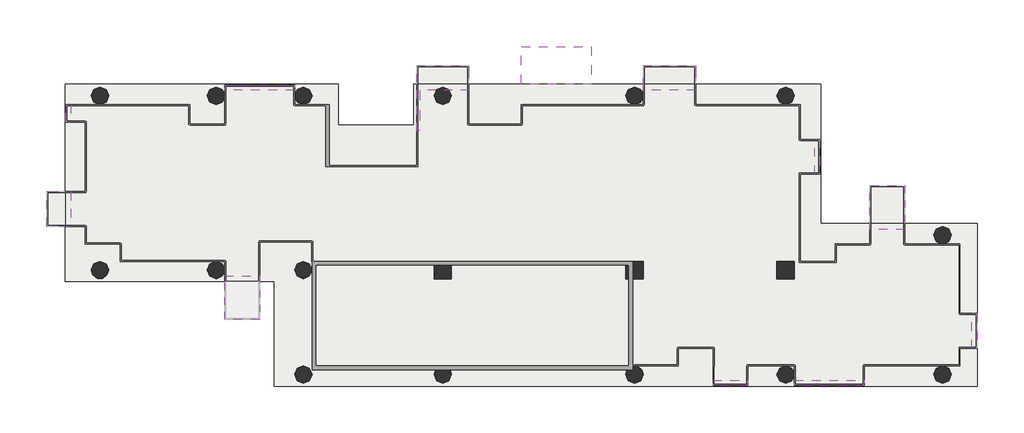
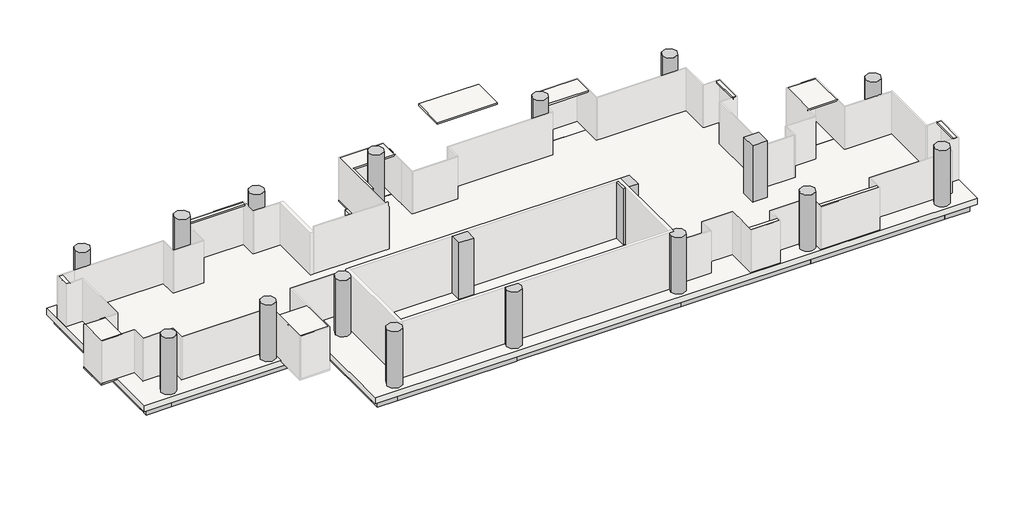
# One storey, part 2 of 2: 39 slabs, 25 beams, 18 columns.
"""IFC4 building model written with IfcOpenShell, lengths in millimetres."""

from ifc_helpers import new_model, si_unit, point, frame, frame_2d, origin, place, context, project, spatial, polyline, circle_curve, trimmed, segment, composite_curve, outline, extrude, transform, mapped, element, save
from ifc_brep_helpers import plane_surface, cylinder_surface, advanced_brep
from components import ajn_arc_ossature_rec_ba_700x600_5242ffbb, ajn_arc_ossature_rec_ba_700x600_213c05e2, ajn_arc_ossature_rec_ba_700x600_4d623bda, ajn_arc_ossature_rec_ba_700x600_c2a8f1af, ajn_arc_ossature_rec_ba_700x600_b2f97811, ajn_arc_ossature_rec_ba_700x600_e688680c, ajn_arc_ossature_rec_ba_700x600_8adee879, ajn_arc_ossature_rec_ba_700x600_6677e51c, ajn_arc_ossature_rec_ba_700x600_60e35d56, ajn_arc_ossature_rec_ba_700x600_9ae0f913, ajn_arc_ossature_rec_ba_700x600_5c14351b, ajn_arc_ossature_rec_ba_700x600_e883967f, ajn_arc_ossature_rec_ba_700x600_0984b03c, ajn_arc_ossature_rec_ba_700x600_78f846f2, ajn_arc_ossature_rec_ba_700x600_e869caa8, ajn_arc_ossature_rec_ba_700x600_0388eb48, ajn_arc_ossature_rec_ba_700x600_e143517c, ajn_arc_ossature_rec_ba_700x600_758f1bfa, ajn_arc_ossature_rec_ba_700x600_64ba80e1, ajn_arc_poteau_circulaire_2744f153

model = new_model("IFC4")

# Units and contexts
model_context = context("Model", 3, world=origin())
ifc_project = project(units=[si_unit("LENGTHUNIT", "METRE", prefix="MILLI")], contexts=[model_context])

# Site, building, storey
site = spatial("IfcSite", under=ifc_project)
building = spatial("IfcBuilding", under=site)
storey = spatial("IfcBuildingStorey", under=building, Name="TW-L 17", Elevation=60399.9999686)

# Beams
placement = place(None, origin())
ajn_arc_ossature_rec_ba_700x600_shape = ajn_arc_ossature_rec_ba_700x600_5242ffbb(model_context)
element("IfcBeam", 1, ObjectType="AJN-ARC-OSSATURE REC-BA : 700x600", at=placement, inside=storey, context=model_context, shape_type="MappedRepresentation", body=[
    mapped(ajn_arc_ossature_rec_ba_700x600_shape, transform((119350.0, 39300.0, 59849.9999686), x_axis=(-1.0, 0.0, 0.0), y_axis=(0.0, -1.0, 0.0), z_axis=(0.0, 0.0, 1.0))),
])
ajn_arc_ossature_rec_ba_700x600_2_shape = ajn_arc_ossature_rec_ba_700x600_213c05e2(model_context)
element("IfcBeam", 2, ObjectType="AJN-ARC-OSSATURE REC-BA : 700x600", at=placement, inside=storey, context=model_context, shape_type="MappedRepresentation", body=[
    mapped(ajn_arc_ossature_rec_ba_700x600_2_shape, transform((100900.0, 34800.0, 59849.9999686), x_axis=(0.0, -1.0, 0.0), y_axis=(1.0, 0.0, 0.0), z_axis=(0.0, 0.0, 1.0))),
])
ajn_arc_ossature_rec_ba_700x600_3_shape = ajn_arc_ossature_rec_ba_700x600_4d623bda(model_context)
element("IfcBeam", 3, ObjectType="AJN-ARC-OSSATURE REC-BA : 700x600", at=placement, inside=storey, context=model_context, shape_type="MappedRepresentation", body=[
    mapped(ajn_arc_ossature_rec_ba_700x600_3_shape, transform((112150.0, 24900.0, 59849.9999686), x_axis=(1.0, 0.0, 0.0), y_axis=(0.0, 1.0, 0.0), z_axis=(0.0, 0.0, 1.0))),
])
ajn_arc_ossature_rec_ba_700x600_4_shape = ajn_arc_ossature_rec_ba_700x600_c2a8f1af(model_context)
element("IfcBeam", 4, ObjectType="AJN-ARC-OSSATURE REC-BA : 700x600", at=placement, inside=storey, context=model_context, shape_type="MappedRepresentation", body=[
    mapped(ajn_arc_ossature_rec_ba_700x600_4_shape, transform((116200.0, 24900.0, 59849.9999686), x_axis=(1.0, 0.0, 0.0), y_axis=(0.0, 1.0, 0.0), z_axis=(0.0, 0.0, 1.0))),
])
ajn_arc_ossature_rec_ba_700x600_5_shape = ajn_arc_ossature_rec_ba_700x600_b2f97811(model_context)
element("IfcBeam", 5, ObjectType="AJN-ARC-OSSATURE REC-BA : 700x600", at=placement, inside=storey, context=model_context, shape_type="MappedRepresentation", body=[
    mapped(ajn_arc_ossature_rec_ba_700x600_5_shape, transform((106900.0, 30300.0, 59849.9999686), x_axis=(1.0, 0.0, 0.0), y_axis=(0.0, 1.0, 0.0), z_axis=(0.0, 0.0, 1.0))),
])
ajn_arc_ossature_rec_ba_700x600_6_shape = ajn_arc_ossature_rec_ba_700x600_e688680c(model_context)
element("IfcBeam", 6, ObjectType="AJN-ARC-OSSATURE REC-BA : 700x600", at=placement, inside=storey, context=model_context, shape_type="MappedRepresentation", body=[
    mapped(ajn_arc_ossature_rec_ba_700x600_6_shape, transform((111700.0, 27600.0, 59849.9999686), x_axis=(0.0, -1.0, 0.0), y_axis=(1.0, 0.0, 0.0), z_axis=(0.0, 0.0, 1.0))),
])
ajn_arc_ossature_rec_ba_700x600_7_shape = ajn_arc_ossature_rec_ba_700x600_8adee879(model_context)
element("IfcBeam", 7, ObjectType="AJN-ARC-OSSATURE REC-BA : 700x600", at=placement, inside=storey, context=model_context, shape_type="MappedRepresentation", body=[
    mapped(ajn_arc_ossature_rec_ba_700x600_7_shape, transform((124750.0, 24900.0, 59849.9999686), x_axis=(1.0, 0.0, 0.0), y_axis=(0.0, 1.0, 0.0), z_axis=(0.0, 0.0, 1.0))),
])
element("IfcBeam", 8, ObjectType="AJN-ARC-OSSATURE REC-BA : 700x600", at=placement, inside=storey, context=model_context, shape_type="MappedRepresentation", body=[
    mapped(ajn_arc_ossature_rec_ba_700x600_7_shape, transform((124750.0, 39300.0, 59849.9999686), x_axis=(-1.0, 0.0, 0.0), y_axis=(0.0, -1.0, 0.0), z_axis=(0.0, 0.0, 1.0))),
])
ajn_arc_ossature_rec_ba_700x600_8_shape = ajn_arc_ossature_rec_ba_700x600_6677e51c(model_context)
element("IfcBeam", 9, ObjectType="AJN-ARC-OSSATURE REC-BA : 700x600", at=placement, inside=storey, context=model_context, shape_type="MappedRepresentation", body=[
    mapped(ajn_arc_ossature_rec_ba_700x600_8_shape, transform((133600.0, 24900.0, 59849.9999686), x_axis=(1.0, 0.0, 0.0), y_axis=(0.0, 1.0, 0.0), z_axis=(0.0, 0.0, 1.0))),
])
ajn_arc_ossature_rec_ba_700x600_9_shape = ajn_arc_ossature_rec_ba_700x600_60e35d56(model_context)
element("IfcBeam", 10, ObjectType="AJN-ARC-OSSATURE REC-BA : 700x600", at=placement, inside=storey, context=model_context, shape_type="MappedRepresentation", body=[
    mapped(ajn_arc_ossature_rec_ba_700x600_9_shape, transform((141550.0, 24900.0, 59849.9999686), x_axis=(1.0, 0.0, 0.0), y_axis=(0.0, 1.0, 0.0), z_axis=(0.0, 0.0, 1.0))),
])
ajn_arc_ossature_rec_ba_700x600_10_shape = ajn_arc_ossature_rec_ba_700x600_9ae0f913(model_context)
element("IfcBeam", 11, ObjectType="AJN-ARC-OSSATURE REC-BA : 700x600", at=placement, inside=storey, context=model_context, shape_type="MappedRepresentation", body=[
    mapped(ajn_arc_ossature_rec_ba_700x600_10_shape, transform((146200.0, 24900.0, 59849.9999686), x_axis=(1.0, 0.0, 0.0), y_axis=(0.0, 1.0, 0.0), z_axis=(0.0, 0.0, 1.0))),
])
element("IfcBeam", 12, ObjectType="AJN-ARC-OSSATURE REC-BA : 700x600", at=placement, inside=storey, context=model_context, shape_type="MappedRepresentation", body=[
    mapped(ajn_arc_ossature_rec_ba_700x600_10_shape, transform((101500.0, 39300.0, 59849.9999686), x_axis=(-1.0, 0.0, 0.0), y_axis=(0.0, -1.0, 0.0), z_axis=(0.0, 0.0, 1.0))),
])
ajn_arc_ossature_rec_ba_700x600_11_shape = ajn_arc_ossature_rec_ba_700x600_5c14351b(model_context)
element("IfcBeam", 13, ObjectType="AJN-ARC-OSSATURE REC-BA : 700x600", at=placement, inside=storey, context=model_context, shape_type="MappedRepresentation", body=[
    mapped(ajn_arc_ossature_rec_ba_700x600_11_shape, transform((146800.0, 28500.0, 59849.9999686), x_axis=(0.0, 1.0, 0.0), y_axis=(-1.0, 0.0, 0.0), z_axis=(0.0, 0.0, 1.0))),
])
element("IfcBeam", 14, ObjectType="AJN-ARC-OSSATURE REC-BA : 700x600", at=placement, inside=storey, context=model_context, shape_type="MappedRepresentation", body=[
    mapped(ajn_arc_ossature_rec_ba_700x600_11_shape, transform((138700.0, 35700.0, 59849.9999686), x_axis=(0.0, 1.0, 0.0), y_axis=(-1.0, 0.0, 0.0), z_axis=(0.0, 0.0, 1.0))),
])
ajn_arc_ossature_rec_ba_700x600_12_shape = ajn_arc_ossature_rec_ba_700x600_e883967f(model_context)
element("IfcBeam", 15, ObjectType="AJN-ARC-OSSATURE REC-BA : 700x600", at=placement, inside=storey, context=model_context, shape_type="MappedRepresentation", body=[
    mapped(ajn_arc_ossature_rec_ba_700x600_12_shape, transform((146200.0, 32100.0, 59849.9999686), x_axis=(-1.0, 0.0, 0.0), y_axis=(0.0, -1.0, 0.0), z_axis=(0.0, 0.0, 1.0))),
])
element("IfcBeam", 16, ObjectType="AJN-ARC-OSSATURE REC-BA : 700x600", at=placement, inside=storey, context=model_context, shape_type="MappedRepresentation", body=[
    mapped(ajn_arc_ossature_rec_ba_700x600_12_shape, transform((138100.0, 39300.0, 59849.9999686), x_axis=(-1.0, 0.0, 0.0), y_axis=(0.0, -1.0, 0.0), z_axis=(0.0, 0.0, 1.0))),
])
element("IfcBeam", 17, ObjectType="AJN-ARC-OSSATURE REC-BA : 700x600", at=placement, inside=storey, context=model_context, shape_type="MappedRepresentation", body=[
    mapped(ajn_arc_ossature_rec_ba_700x600_12_shape, transform((113200.0, 39300.0, 59849.9999686), x_axis=(-1.0, 0.0, 0.0), y_axis=(0.0, -1.0, 0.0), z_axis=(0.0, 0.0, 1.0))),
])
element("IfcBeam", 18, ObjectType="AJN-ARC-OSSATURE REC-BA : 700x600", at=placement, inside=storey, context=model_context, shape_type="MappedRepresentation", body=[
    mapped(ajn_arc_ossature_rec_ba_700x600_12_shape, transform((101500.0, 30300.0, 59849.9999686), x_axis=(1.0, 0.0, 0.0), y_axis=(0.0, 1.0, 0.0), z_axis=(0.0, 0.0, 1.0))),
])
ajn_arc_ossature_rec_ba_700x600_13_shape = ajn_arc_ossature_rec_ba_700x600_0984b03c(model_context)
element("IfcBeam", 19, ObjectType="AJN-ARC-OSSATURE REC-BA : 700x600", at=placement, inside=storey, context=model_context, shape_type="MappedRepresentation", body=[
    mapped(ajn_arc_ossature_rec_ba_700x600_13_shape, transform((142150.0, 32100.0, 59849.9999686), x_axis=(-1.0, 0.0, 0.0), y_axis=(0.0, -1.0, 0.0), z_axis=(0.0, 0.0, 1.0))),
])
ajn_arc_ossature_rec_ba_700x600_14_shape = ajn_arc_ossature_rec_ba_700x600_78f846f2(model_context)
element("IfcBeam", 20, ObjectType="AJN-ARC-OSSATURE REC-BA : 700x600", at=placement, inside=storey, context=model_context, shape_type="MappedRepresentation", body=[
    mapped(ajn_arc_ossature_rec_ba_700x600_14_shape, transform((133600.0, 39300.0, 59849.9999686), x_axis=(-1.0, 0.0, 0.0), y_axis=(0.0, -1.0, 0.0), z_axis=(0.0, 0.0, 1.0))),
])
ajn_arc_ossature_rec_ba_700x600_15_shape = ajn_arc_ossature_rec_ba_700x600_e869caa8(model_context)
element("IfcBeam", 21, ObjectType="AJN-ARC-OSSATURE REC-BA : 700x600", at=placement, inside=storey, context=model_context, shape_type="MappedRepresentation", body=[
    mapped(ajn_arc_ossature_rec_ba_700x600_15_shape, transform((118900.0, 38250.0, 59849.9999686), x_axis=(0.0, -1.0, 0.0), y_axis=(1.0, 0.0, 0.0), z_axis=(0.0, 0.0, 1.0))),
])
ajn_arc_ossature_rec_ba_700x600_16_shape = ajn_arc_ossature_rec_ba_700x600_0388eb48(model_context)
element("IfcBeam", 22, ObjectType="AJN-ARC-OSSATURE REC-BA : 700x600", at=placement, inside=storey, context=model_context, shape_type="MappedRepresentation", body=[
    mapped(ajn_arc_ossature_rec_ba_700x600_16_shape, transform((110350.0, 39300.0, 59849.9999686), x_axis=(-1.0, 0.0, 0.0), y_axis=(0.0, -1.0, 0.0), z_axis=(0.0, 0.0, 1.0))),
])
ajn_arc_ossature_rec_ba_700x600_17_shape = ajn_arc_ossature_rec_ba_700x600_e143517c(model_context)
element("IfcBeam", 23, ObjectType="AJN-ARC-OSSATURE REC-BA : 700x600", at=placement, inside=storey, context=model_context, shape_type="MappedRepresentation", body=[
    mapped(ajn_arc_ossature_rec_ba_700x600_17_shape, transform((105100.0, 39300.0, 59849.9999686), x_axis=(-1.0, 0.0, 0.0), y_axis=(0.0, -1.0, 0.0), z_axis=(0.0, 0.0, 1.0))),
])
ajn_arc_ossature_rec_ba_700x600_18_shape = ajn_arc_ossature_rec_ba_700x600_758f1bfa(model_context)
element("IfcBeam", 24, ObjectType="AJN-ARC-OSSATURE REC-BA : 700x600", at=placement, inside=storey, context=model_context, shape_type="MappedRepresentation", body=[
    mapped(ajn_arc_ossature_rec_ba_700x600_18_shape, transform((116350.0, 37200.0, 59849.9999686), x_axis=(-1.0, 0.0, 0.0), y_axis=(0.0, -1.0, 0.0), z_axis=(0.0, 0.0, 1.0))),
])
ajn_arc_ossature_rec_ba_700x600_19_shape = ajn_arc_ossature_rec_ba_700x600_64ba80e1(model_context)
element("IfcBeam", 25, ObjectType="AJN-ARC-OSSATURE REC-BA : 700x600", at=placement, inside=storey, context=model_context, shape_type="MappedRepresentation", body=[
    mapped(ajn_arc_ossature_rec_ba_700x600_19_shape, transform((113800.0, 38250.0, 59849.9999686), x_axis=(0.0, 1.0, 0.0), y_axis=(-1.0, 0.0, 0.0), z_axis=(0.0, 0.0, 1.0))),
])

# Columns
element("IfcColumn", 26, ObjectType="AJN-ARC-POTEAU CIRCULAIRE : ø90", at=placement, inside=storey, context=model_context, shape_type="SweptSolid", body=[
    extrude(outline(composite_curve([segment(trimmed(circle_curve(frame_2d((102100.0, 39300.0)), 450.0), [point((101650.0, 39300.0))], [point((102550.0, 39300.0))], False, "CARTESIAN"), True, "CONTINUOUS"), segment(trimmed(circle_curve(frame_2d((102100.0, 39300.0)), 450.0), [point((102550.0, 39300.0))], [point((101650.0, 39300.0))], False, "CARTESIAN"), True, "CONTINUOUS")], self_intersect=False)), frame((0.0, 0.0, 60399.9999686), z_axis=(0.0, 0.0, 1.0), x_axis=(1.0, 0.0, 0.0)), (0.0, 0.0, 1.0), 3600.0),
])
element("IfcColumn", 27, ObjectType="AJN-ARC-POTEAU CIRCULAIRE : ø90", at=placement, inside=storey, context=model_context, shape_type="AdvancedBrep", body=[
    advanced_brep(
    [(107650.0, 30300.0, 60399.9999686), (108547.1743518, 30350.3497671, 60399.9999686), (108547.1743518, 30249.6502329, 60399.9999686), (107650.0, 30300.0, 63999.9999686), (108550.0, 30300.0, 63999.9999686), (108550.0, 30300.0, 63099.9999686), (108547.1743518, 30350.3497671, 63099.9999686), (108547.1743518, 30249.6502329, 63099.9999686)],
    [
        (0, 1, circle_curve(frame((108100.0, 30300.0, 60399.9999686), z_axis=(0.0, 0.0, -1.0), x_axis=(1.0, 0.0, 0.0)), 450.0)),
        (1, 2),
        (2, 0, circle_curve(frame((108100.0, 30300.0, 60399.9999686), z_axis=(0.0, 0.0, -1.0), x_axis=(1.0, 0.0, 0.0)), 450.0)),
        (3, 4, circle_curve(frame((108100.0, 30300.0, 63999.9999686), z_axis=(0.0, 0.0, -1.0), x_axis=(1.0, 0.0, 0.0)), 450.0)),
        (4, 5),
        (5, 6, circle_curve(frame((108100.0, 30300.0, 63099.9999686), z_axis=(0.0, 0.0, 1.0), x_axis=(1.0, 0.0, 0.0)), 450.0)),
        (6, 1),
        (0, 3),
        (2, 7),
        (7, 5, circle_curve(frame((108100.0, 30300.0, 63099.9999686), z_axis=(0.0, 0.0, 1.0), x_axis=(1.0, 0.0, 0.0)), 450.0)),
        (4, 3, circle_curve(frame((108100.0, 30300.0, 63999.9999686), z_axis=(0.0, 0.0, -1.0), x_axis=(1.0, 0.0, 0.0)), 450.0)),
        (6, 7),
    ],
    [
        plane_surface(frame((108550.0, 30300.0, 60399.9999686), z_axis=(0.0, 0.0, -1.0), x_axis=(0.0, -1.0, 0.0))),
        cylinder_surface(frame((108100.0, 30300.0, 60399.9999686), z_axis=(0.0, 0.0, 1.0), x_axis=(1.0, 0.0, 0.0)), 450.0),
        plane_surface(frame((108550.0, 30300.0, 63999.9999686), z_axis=(0.0, 0.0, 1.0), x_axis=(0.0, 1.0, 0.0))),
        plane_surface(frame((108547.1743518, 30750.0, 60399.9999686), z_axis=(1.0, 0.0, 0.0), x_axis=(0.0, -1.0, 0.0))),
        plane_surface(frame((108547.1743518, 27775.0, 63099.9999686), z_axis=(0.0, 0.0, -1.0), x_axis=(1.0, 0.0, 0.0))),
    ],
    [
        (0, [[1, 2, 3]]),
        (1, [[4, 5, 6, 7, -1, 8]]),
        (1, [[-8, -3, 9, 10, -5, 11]]),
        (2, [[-4, -11]]),
        (3, [[12, -9, -2, -7]]),
        (4, [[-12, -6, -10]]),
    ],
),
])
element("IfcColumn", 28, ObjectType="AJN-ARC-POTEAU CIRCULAIRE : ø90", at=placement, inside=storey, context=model_context, shape_type="SweptSolid", body=[
    extrude(outline(composite_curve([segment(trimmed(circle_curve(frame_2d((108100.0, 39300.0)), 450.0), [point((107650.0, 39300.0))], [point((108550.0, 39300.0))], False, "CARTESIAN"), True, "CONTINUOUS"), segment(trimmed(circle_curve(frame_2d((108100.0, 39300.0)), 450.0), [point((108550.0, 39300.0))], [point((107650.0, 39300.0))], False, "CARTESIAN"), True, "CONTINUOUS")], self_intersect=False)), frame((0.0, 0.0, 60399.9999686), z_axis=(0.0, 0.0, 1.0), x_axis=(1.0, 0.0, 0.0)), (0.0, 0.0, 1.0), 3600.0),
])
element("IfcColumn", 29, ObjectType="AJN-ARC-POTEAU CIRCULAIRE : ø90", at=placement, inside=storey, context=model_context, shape_type="SweptSolid", body=[
    extrude(outline(composite_curve([segment(trimmed(circle_curve(frame_2d((112600.0, 39300.0)), 450.0), [point((112150.0, 39300.0))], [point((113050.0, 39300.0))], False, "CARTESIAN"), True, "CONTINUOUS"), segment(trimmed(circle_curve(frame_2d((112600.0, 39300.0)), 450.0), [point((113050.0, 39300.0))], [point((112150.0, 39300.0))], False, "CARTESIAN"), True, "CONTINUOUS")], self_intersect=False)), frame((0.0, 0.0, 60399.9999686), z_axis=(0.0, 0.0, 1.0), x_axis=(1.0, 0.0, 0.0)), (0.0, 0.0, 1.0), 3600.0),
])
element("IfcColumn", 30, ObjectType="AJN-ARC-POTEAU CIRCULAIRE : ø90", at=placement, inside=storey, context=model_context, shape_type="SweptSolid", body=[
    extrude(outline(composite_curve([segment(trimmed(circle_curve(frame_2d((112600.0, 30300.0)), 450.0), [point((112150.0, 30300.0))], [point((113050.0, 30300.0))], False, "CARTESIAN"), True, "CONTINUOUS"), segment(trimmed(circle_curve(frame_2d((112600.0, 30300.0)), 450.0), [point((113050.0, 30300.0))], [point((112150.0, 30300.0))], False, "CARTESIAN"), True, "CONTINUOUS")], self_intersect=False)), frame((0.0, 0.0, 60399.9999686), z_axis=(0.0, 0.0, 1.0), x_axis=(1.0, 0.0, 0.0)), (0.0, 0.0, 1.0), 3600.0),
])
element("IfcColumn", 31, ObjectType="AJN-ARC-POTEAU CIRCULAIRE : ø90", at=placement, inside=storey, context=model_context, shape_type="SweptSolid", body=[
    extrude(outline(composite_curve([segment(trimmed(circle_curve(frame_2d((112600.0, 24900.0)), 450.0), [point((112150.0, 24900.0))], [point((113050.0, 24900.0))], False, "CARTESIAN"), True, "CONTINUOUS"), segment(trimmed(circle_curve(frame_2d((112600.0, 24900.0)), 450.0), [point((113050.0, 24900.0))], [point((112150.0, 24900.0))], False, "CARTESIAN"), True, "CONTINUOUS")], self_intersect=False)), frame((0.0, 0.0, 60399.9999686), z_axis=(0.0, 0.0, 1.0), x_axis=(1.0, 0.0, 0.0)), (0.0, 0.0, 1.0), 3600.0),
])
element("IfcColumn", 32, ObjectType="AJN-ARC-POTEAU CIRCULAIRE : ø90", at=placement, inside=storey, context=model_context, shape_type="SweptSolid", body=[
    extrude(outline(composite_curve([segment(trimmed(circle_curve(frame_2d((119800.0, 24900.0)), 450.0), [point((120250.0, 24900.0))], [point((119350.0, 24900.0))], False, "CARTESIAN"), True, "CONTINUOUS"), segment(trimmed(circle_curve(frame_2d((119800.0, 24900.0)), 450.0), [point((119350.0, 24900.0))], [point((119425.8342613, 25150.0))], False, "CARTESIAN"), True, "CONTINUOUS"), segment(polyline([(119425.8342613, 25150.0), (120174.1657387, 25150.0)]), True, "CONTINUOUS"), segment(trimmed(circle_curve(frame_2d((119800.0, 24900.0)), 450.0), [point((120174.1657387, 25150.0))], [point((120250.0, 24900.0))], False, "CARTESIAN"), True, "CONTINUOUS")], self_intersect=False)), frame((0.0, 0.0, 60399.9999686), z_axis=(0.0, 0.0, 1.0), x_axis=(1.0, 0.0, 0.0)), (0.0, 0.0, 1.0), 3600.0),
])
element("IfcColumn", 33, ObjectType="AJN-ARC-POTEAU CIRCULAIRE : ø90", at=placement, inside=storey, context=model_context, shape_type="SweptSolid", body=[
    extrude(outline(composite_curve([segment(trimmed(circle_curve(frame_2d((119800.0, 39300.0)), 450.0), [point((119350.0, 39300.0))], [point((120250.0, 39300.0))], False, "CARTESIAN"), True, "CONTINUOUS"), segment(trimmed(circle_curve(frame_2d((119800.0, 39300.0)), 450.0), [point((120250.0, 39300.0))], [point((119350.0, 39300.0))], False, "CARTESIAN"), True, "CONTINUOUS")], self_intersect=False)), frame((0.0, 0.0, 60399.9999686), z_axis=(0.0, 0.0, 1.0), x_axis=(1.0, 0.0, 0.0)), (0.0, 0.0, 1.0), 3600.0),
])
element("IfcColumn", 34, ObjectType="AJN-ARC-POTEAU CIRCULAIRE : ø90", at=placement, inside=storey, context=model_context, shape_type="SweptSolid", body=[
    extrude(outline(composite_curve([segment(trimmed(circle_curve(frame_2d((129700.0, 39300.0)), 450.0), [point((129250.0, 39300.0))], [point((130150.0, 39300.0))], False, "CARTESIAN"), True, "CONTINUOUS"), segment(trimmed(circle_curve(frame_2d((129700.0, 39300.0)), 450.0), [point((130150.0, 39300.0))], [point((129250.0, 39300.0))], False, "CARTESIAN"), True, "CONTINUOUS")], self_intersect=False)), frame((0.0, 0.0, 60399.9999686), z_axis=(0.0, 0.0, 1.0), x_axis=(1.0, 0.0, 0.0)), (0.0, 0.0, 1.0), 3600.0),
])
element("IfcColumn", 35, ObjectType="AJN-ARC-POTEAU CIRCULAIRE : ø90", at=placement, inside=storey, context=model_context, shape_type="SweptSolid", body=[
    extrude(outline(composite_curve([segment(trimmed(circle_curve(frame_2d((129700.0, 24900.0)), 450.0), [point((130150.0, 24900.0))], [point((129250.0, 24900.0))], False, "CARTESIAN"), True, "CONTINUOUS"), segment(trimmed(circle_curve(frame_2d((129700.0, 24900.0)), 450.0), [point((129250.0, 24900.0))], [point((129325.8342613, 25150.0))], False, "CARTESIAN"), True, "CONTINUOUS"), segment(polyline([(129325.8342613, 25150.0), (129600.0, 25150.0), (129600.0, 25338.7482194)]), True, "CONTINUOUS"), segment(trimmed(circle_curve(frame_2d((129700.0, 24900.0)), 450.0), [point((129600.0, 25338.7482194))], [point((130150.0, 24900.0))], False, "CARTESIAN"), True, "CONTINUOUS")], self_intersect=False)), frame((0.0, 0.0, 60399.9999686), z_axis=(0.0, 0.0, 1.0), x_axis=(1.0, 0.0, 0.0)), (0.0, 0.0, 1.0), 3600.0),
])
element("IfcColumn", 36, ObjectType="AJN-ARC-POTEAU CIRCULAIRE : ø90", at=placement, inside=storey, context=model_context, shape_type="SweptSolid", body=[
    extrude(outline(composite_curve([segment(trimmed(circle_curve(frame_2d((137500.0, 39300.0)), 450.0), [point((137050.0, 39300.0))], [point((137950.0, 39300.0))], False, "CARTESIAN"), True, "CONTINUOUS"), segment(trimmed(circle_curve(frame_2d((137500.0, 39300.0)), 450.0), [point((137950.0, 39300.0))], [point((137050.0, 39300.0))], False, "CARTESIAN"), True, "CONTINUOUS")], self_intersect=False)), frame((0.0, 0.0, 60399.9999686), z_axis=(0.0, 0.0, 1.0), x_axis=(1.0, 0.0, 0.0)), (0.0, 0.0, 1.0), 3600.0),
])
element("IfcColumn", 37, ObjectType="AJN-ARC-POTEAU CIRCULAIRE : ø90", at=placement, inside=storey, context=model_context, shape_type="SweptSolid", body=[
    extrude(outline(composite_curve([segment(trimmed(circle_curve(frame_2d((137500.0, 24900.0)), 450.0), [point((137050.0, 24900.0))], [point((137950.0, 24900.0))], False, "CARTESIAN"), True, "CONTINUOUS"), segment(trimmed(circle_curve(frame_2d((137500.0, 24900.0)), 450.0), [point((137950.0, 24900.0))], [point((137050.0, 24900.0))], False, "CARTESIAN"), True, "CONTINUOUS")], self_intersect=False)), frame((0.0, 0.0, 60399.9999686), z_axis=(0.0, 0.0, 1.0), x_axis=(1.0, 0.0, 0.0)), (0.0, 0.0, 1.0), 3600.0),
])
element("IfcColumn", 38, ObjectType="AJN-ARC-POTEAU CIRCULAIRE : ø90", at=placement, inside=storey, context=model_context, shape_type="SweptSolid", body=[
    extrude(outline(composite_curve([segment(trimmed(circle_curve(frame_2d((145600.0, 24900.0)), 450.0), [point((145150.0, 24900.0))], [point((146050.0, 24900.0))], False, "CARTESIAN"), True, "CONTINUOUS"), segment(trimmed(circle_curve(frame_2d((145600.0, 24900.0)), 450.0), [point((146050.0, 24900.0))], [point((145150.0, 24900.0))], False, "CARTESIAN"), True, "CONTINUOUS")], self_intersect=False)), frame((0.0, 0.0, 60399.9999686), z_axis=(0.0, 0.0, 1.0), x_axis=(1.0, 0.0, 0.0)), (0.0, 0.0, 1.0), 3600.0),
])
element("IfcColumn", 39, ObjectType="AJN-ARC-POTEAU CIRCULAIRE : ø90", at=placement, inside=storey, context=model_context, shape_type="AdvancedBrep", body=[
    advanced_brep(
    [(145150.0, 32100.0, 60399.9999686), (146050.0, 32100.0, 60399.9999686), (145638.6089983, 31651.6593424, 60399.9999686), (145561.3910017, 31651.6593424, 60399.9999686), (145150.0, 32100.0, 63999.9999686), (146050.0, 32100.0, 63999.9999686), (145561.3910017, 31651.6593424, 63099.9999686), (145638.6089983, 31651.6593424, 63099.9999686)],
    [
        (0, 1, circle_curve(frame((145600.0, 32100.0, 60399.9999686), z_axis=(0.0, 0.0, -1.0), x_axis=(1.0, 0.0, 0.0)), 450.0)),
        (1, 2, circle_curve(frame((145600.0, 32100.0, 60399.9999686), z_axis=(0.0, 0.0, -1.0), x_axis=(1.0, 0.0, 0.0)), 450.0)),
        (2, 3),
        (3, 0, circle_curve(frame((145600.0, 32100.0, 60399.9999686), z_axis=(0.0, 0.0, -1.0), x_axis=(1.0, 0.0, 0.0)), 450.0)),
        (0, 4),
        (4, 5, circle_curve(frame((145600.0, 32100.0, 63999.9999686), z_axis=(0.0, 0.0, -1.0), x_axis=(1.0, 0.0, 0.0)), 450.0)),
        (5, 1),
        (5, 4, circle_curve(frame((145600.0, 32100.0, 63999.9999686), z_axis=(0.0, 0.0, -1.0), x_axis=(1.0, 0.0, 0.0)), 450.0)),
        (3, 6),
        (6, 7, circle_curve(frame((145600.0, 32100.0, 63099.9999686), z_axis=(0.0, 0.0, 1.0), x_axis=(1.0, 0.0, 0.0)), 450.0)),
        (7, 2),
        (7, 6),
    ],
    [
        plane_surface(frame((146050.0, 32100.0, 60399.9999686), z_axis=(0.0, 0.0, -1.0), x_axis=(0.0, -1.0, 0.0))),
        cylinder_surface(frame((145600.0, 32100.0, 60399.9999686), z_axis=(0.0, 0.0, 1.0), x_axis=(1.0, 0.0, 0.0)), 450.0),
        plane_surface(frame((146050.0, 32100.0, 63999.9999686), z_axis=(0.0, 0.0, 1.0), x_axis=(0.0, 1.0, 0.0))),
        plane_surface(frame((146472.681474, 31651.6593424, 60399.9999686), z_axis=(0.0, -1.0, 0.0), x_axis=(-1.0, 0.0, 0.0))),
        plane_surface(frame((143650.0, 31651.6593424, 63099.9999686), z_axis=(0.0, 0.0, -1.0), x_axis=(0.0, -1.0, 0.0))),
    ],
    [
        (0, [[1, 2, 3, 4]]),
        (1, [[-1, 5, 6, 7]]),
        (1, [[-7, 8, -5, -4, 9, 10, 11, -2]]),
        (2, [[-6, -8]]),
        (3, [[12, -9, -3, -11]]),
        (4, [[-12, -10]]),
    ],
),
])
ajn_arc_poteau_circulaire_shape = ajn_arc_poteau_circulaire_2744f153(model_context)
element("IfcColumn", 40, ObjectType="AJN-ARC-POTEAU CIRCULAIRE : ø90", at=placement, inside=storey, context=model_context, shape_type="MappedRepresentation", body=[
    mapped(ajn_arc_poteau_circulaire_shape, transform((102100.0, 30300.0, 0.0), x_axis=(1.0, 0.0, 0.0), y_axis=(0.0, 1.0, 0.0), z_axis=(0.0, 0.0, 1.0))),
])
element("IfcColumn", 41, ObjectType="AJN-ARC-POTEAU RECTANGULAIRE : 900 mm x 900 mm", at=placement, inside=storey, context=model_context, shape_type="SweptSolid", body=[
    extrude(outline(polyline([(137950.0, 30750.0), (137950.0, 29850.0), (137050.0, 29850.0), (137050.0, 30750.0), (137950.0, 30750.0)])), frame((0.0, 0.0, 60399.9999686), z_axis=(0.0, 0.0, 1.0), x_axis=(1.0, 0.0, 0.0)), (0.0, 0.0, 1.0), 3600.0),
])
element("IfcColumn", 42, ObjectType="AJN-ARC-POTEAU RECTANGULAIRE : 900 mm x 900 mm", at=placement, inside=storey, context=model_context, shape_type="SweptSolid", body=[
    extrude(outline(polyline([(129400.0, 29850.0), (129250.0, 29850.0), (129250.0, 30550.0), (129400.0, 30550.0), (129400.0, 29850.0)])), frame((0.0, 0.0, 60399.9999686), z_axis=(0.0, 0.0, 1.0), x_axis=(1.0, 0.0, 0.0)), (0.0, 0.0, 1.0), 3600.0),
    extrude(outline(polyline([(130150.0, 30750.0), (130150.0, 29850.0), (129600.0, 29850.0), (129600.0, 30750.0), (130150.0, 30750.0)])), frame((0.0, 0.0, 60399.9999686), z_axis=(0.0, 0.0, 1.0), x_axis=(1.0, 0.0, 0.0)), (0.0, 0.0, 1.0), 3600.0),
])
element("IfcColumn", 43, ObjectType="AJN-ARC-POTEAU RECTANGULAIRE : 900 mm x 900 mm", at=placement, inside=storey, context=model_context, shape_type="SweptSolid", body=[
    extrude(outline(polyline([(120250.0, 29850.0), (119350.0, 29850.0), (119350.0, 30550.0), (120250.0, 30550.0), (120250.0, 29850.0)])), frame((0.0, 0.0, 60399.9999686), z_axis=(0.0, 0.0, 1.0), x_axis=(1.0, 0.0, 0.0)), (0.0, 0.0, 1.0), 3600.0),
])

# Slabs
element("IfcSlab", 44, ObjectType="AJN-ARC-SLAB-10cm", at=placement, inside=storey, context=model_context, shape_type="SweptSolid", body=[
    extrude(outline(polyline([(132850.0, 39900.0), (130150.0, 39900.0), (130150.0, 40850.0), (132850.0, 40850.0), (132850.0, 39900.0)])), frame((0.0, 0.0, 60299.9999686), z_axis=(0.0, 0.0, 1.0), x_axis=(1.0, 0.0, 0.0)), (0.0, 0.0, 1.0), 100.0),
])
element("IfcSlab", 45, ObjectType="AJN-ARC-SLAB-10cm", at=placement, inside=storey, context=model_context, shape_type="SweptSolid", body=[
    extrude(outline(polyline([(121150.0, 39900.0), (118450.0, 39900.0), (118450.0, 40850.0), (121150.0, 40850.0), (121150.0, 39900.0)])), frame((0.0, 0.0, 60299.9999686), z_axis=(0.0, 0.0, 1.0), x_axis=(1.0, 0.0, 0.0)), (0.0, 0.0, 1.0), 100.0),
])
element("IfcSlab", 46, ObjectType="AJN-ARC-SLAB-10cm", at=placement, inside=storey, context=model_context, shape_type="SweptSolid", body=[
    extrude(outline(polyline([(143650.0, 32700.0), (141850.0, 32700.0), (141850.0, 34651.6593424), (143650.0, 34651.6593424), (143650.0, 32700.0)])), frame((0.0, 0.0, 60299.9999686), z_axis=(0.0, 0.0, 1.0), x_axis=(1.0, 0.0, 0.0)), (0.0, 0.0, 1.0), 100.0),
])
element("IfcSlab", 47, ObjectType="AJN-ARC-SLAB-10cm", at=placement, inside=storey, context=model_context, shape_type="SweptSolid", body=[
    extrude(outline(polyline([(100300.0, 32550.0), (99347.1743518, 32550.0), (99347.1743518, 34350.0), (100300.0, 34350.0), (100300.0, 32550.0)])), frame((0.0, 0.0, 60299.9999686), z_axis=(0.0, 0.0, 1.0), x_axis=(1.0, 0.0, 0.0)), (0.0, 0.0, 1.0), 100.0),
])
element("IfcSlab", 48, ObjectType="AJN-ARC-SLAB-10cm", at=placement, inside=storey, context=model_context, shape_type="SweptSolid", body=[
    extrude(outline(polyline([(100300.0, 32550.0), (99347.1743518, 32550.0), (99347.1743518, 34350.0), (100300.0, 34350.0), (100300.0, 32550.0)])), frame((0.0, 0.0, 60299.9999686), z_axis=(0.0, 0.0, 1.0), x_axis=(1.0, 0.0, 0.0)), (0.0, 0.0, 1.0), 100.0),
])
element("IfcSlab", 49, ObjectType="AJN-ARC-SLAB-10cm", at=placement, inside=storey, context=model_context, shape_type="SweptSolid", body=[
    extrude(outline(polyline([(100300.0, 32550.0), (99347.1743518, 32550.0), (99347.1743518, 34350.0), (100300.0, 34350.0), (100300.0, 32550.0)])), frame((0.0, 0.0, 60299.9999686), z_axis=(0.0, 0.0, 1.0), x_axis=(1.0, 0.0, 0.0)), (0.0, 0.0, 1.0), 100.0),
])
element("IfcSlab", 50, ObjectType="AJN-ARC-SLAB-10cm", at=placement, inside=storey, context=model_context, shape_type="SweptSolid", body=[
    extrude(outline(polyline([(100300.0, 32550.0), (99347.1743518, 32550.0), (99347.1743518, 34350.0), (100300.0, 34350.0), (100300.0, 32550.0)])), frame((0.0, 0.0, 60299.9999686), z_axis=(0.0, 0.0, 1.0), x_axis=(1.0, 0.0, 0.0)), (0.0, 0.0, 1.0), 100.0),
])
element("IfcSlab", 51, ObjectType="AJN-ARC-SLAB-10cm", at=placement, inside=storey, context=model_context, shape_type="SweptSolid", body=[
    extrude(outline(polyline([(100300.0, 32550.0), (99347.1743518, 32550.0), (99347.1743518, 34350.0), (100300.0, 34350.0), (100300.0, 32550.0)])), frame((0.0, 0.0, 60299.9999686), z_axis=(0.0, 0.0, 1.0), x_axis=(1.0, 0.0, 0.0)), (0.0, 0.0, 1.0), 100.0),
])
element("IfcSlab", 52, ObjectType="AJN-ARC-SLAB-10cm", at=placement, inside=storey, context=model_context, shape_type="SweptSolid", body=[
    extrude(outline(polyline([(100300.0, 32550.0), (99347.1743518, 32550.0), (99347.1743518, 34350.0), (100300.0, 34350.0), (100300.0, 32550.0)])), frame((0.0, 0.0, 60299.9999686), z_axis=(0.0, 0.0, 1.0), x_axis=(1.0, 0.0, 0.0)), (0.0, 0.0, 1.0), 100.0),
])
element("IfcSlab", 53, ObjectType="AJN-ARC-SLAB-10cm", at=placement, inside=storey, context=model_context, shape_type="SweptSolid", body=[
    extrude(outline(polyline([(100300.0, 32550.0), (99347.1743518, 32550.0), (99347.1743518, 34350.0), (100300.0, 34350.0), (100300.0, 32550.0)])), frame((0.0, 0.0, 60299.9999686), z_axis=(0.0, 0.0, 1.0), x_axis=(1.0, 0.0, 0.0)), (0.0, 0.0, 1.0), 100.0),
])
element("IfcSlab", 54, ObjectType="AJN-ARC-SLAB-10cm", at=placement, inside=storey, context=model_context, shape_type="SweptSolid", body=[
    extrude(outline(polyline([(100300.0, 32550.0), (99347.1743518, 32550.0), (99347.1743518, 34350.0), (100300.0, 34350.0), (100300.0, 32550.0)])), frame((0.0, 0.0, 60299.9999686), z_axis=(0.0, 0.0, 1.0), x_axis=(1.0, 0.0, 0.0)), (0.0, 0.0, 1.0), 100.0),
])
element("IfcSlab", 55, ObjectType="AJN-ARC-SLAB-10cm", at=placement, inside=storey, context=model_context, shape_type="SweptSolid", body=[
    extrude(outline(polyline([(100300.0, 32550.0), (99347.1743518, 32550.0), (99347.1743518, 34350.0), (100300.0, 34350.0), (100300.0, 32550.0)])), frame((0.0, 0.0, 60299.9999686), z_axis=(0.0, 0.0, 1.0), x_axis=(1.0, 0.0, 0.0)), (0.0, 0.0, 1.0), 100.0),
])
element("IfcSlab", 56, ObjectType="AJN-ARC-SLAB-10cm", at=placement, inside=storey, context=model_context, shape_type="SweptSolid", body=[
    extrude(outline(polyline([(100300.0, 32550.0), (99347.1743518, 32550.0), (99347.1743518, 34350.0), (100300.0, 34350.0), (100300.0, 32550.0)])), frame((0.0, 0.0, 60299.9999686), z_axis=(0.0, 0.0, 1.0), x_axis=(1.0, 0.0, 0.0)), (0.0, 0.0, 1.0), 100.0),
])
element("IfcSlab", 57, ObjectType="AJN-ARC-SLAB-10cm", at=placement, inside=storey, context=model_context, shape_type="SweptSolid", body=[
    extrude(outline(polyline([(100300.0, 32550.0), (99347.1743518, 32550.0), (99347.1743518, 34350.0), (100300.0, 34350.0), (100300.0, 32550.0)])), frame((0.0, 0.0, 60299.9999686), z_axis=(0.0, 0.0, 1.0), x_axis=(1.0, 0.0, 0.0)), (0.0, 0.0, 1.0), 100.0),
])
element("IfcSlab", 58, ObjectType="AJN-ARC-SLAB-10cm", at=placement, inside=storey, context=model_context, shape_type="SweptSolid", body=[
    extrude(outline(polyline([(100300.0, 32550.0), (99347.1743518, 32550.0), (99347.1743518, 34350.0), (100300.0, 34350.0), (100300.0, 32550.0)])), frame((0.0, 0.0, 60299.9999686), z_axis=(0.0, 0.0, 1.0), x_axis=(1.0, 0.0, 0.0)), (0.0, 0.0, 1.0), 100.0),
])
element("IfcSlab", 59, ObjectType="AJN-ARC-SLAB-10cm", at=placement, inside=storey, context=model_context, shape_type="SweptSolid", body=[
    extrude(outline(polyline([(100300.0, 32550.0), (99347.1743518, 32550.0), (99347.1743518, 34350.0), (100300.0, 34350.0), (100300.0, 32550.0)])), frame((0.0, 0.0, 60299.9999686), z_axis=(0.0, 0.0, 1.0), x_axis=(1.0, 0.0, 0.0)), (0.0, 0.0, 1.0), 100.0),
])
element("IfcSlab", 60, ObjectType="AJN-ARC-SLAB-10cm", at=placement, inside=storey, context=model_context, shape_type="SweptSolid", body=[
    extrude(outline(polyline([(100300.0, 32550.0), (99347.1743518, 32550.0), (99347.1743518, 34350.0), (100300.0, 34350.0), (100300.0, 32550.0)])), frame((0.0, 0.0, 60299.9999686), z_axis=(0.0, 0.0, 1.0), x_axis=(1.0, 0.0, 0.0)), (0.0, 0.0, 1.0), 100.0),
])
element("IfcSlab", 61, ObjectType="AJN-ARC-SLAB-10cm", at=placement, inside=storey, context=model_context, shape_type="SweptSolid", body=[
    extrude(outline(polyline([(100300.0, 32550.0), (99347.1743518, 32550.0), (99347.1743518, 34350.0), (100300.0, 34350.0), (100300.0, 32550.0)])), frame((0.0, 0.0, 60299.9999686), z_axis=(0.0, 0.0, 1.0), x_axis=(1.0, 0.0, 0.0)), (0.0, 0.0, 1.0), 100.0),
])
element("IfcSlab", 62, ObjectType="AJN-ARC-SLAB-10cm", at=placement, inside=storey, context=model_context, shape_type="SweptSolid", body=[
    extrude(outline(polyline([(135550.3417807, 24350.0), (133750.3417807, 24350.0), (133750.3417807, 24600.0), (135550.3417807, 24600.0), (135550.3417807, 24350.0)])), frame((0.0, 0.0, 62999.9999686), z_axis=(0.0, 0.0, 1.0), x_axis=(1.0, 0.0, 0.0)), (0.0, 0.0, 1.0), 100.0),
])
element("IfcSlab", 63, ObjectType="AJN-ARC-SLAB-10cm", at=placement, inside=storey, context=model_context, shape_type="SweptSolid", body=[
    extrude(outline(polyline([(112150.0, 39600.0), (108550.0, 39600.0), (108550.0, 39850.0), (112150.0, 39850.0), (112150.0, 39600.0)])), frame((0.0, 0.0, 62999.9999686), z_axis=(0.0, 0.0, 1.0), x_axis=(1.0, 0.0, 0.0)), (0.0, 0.0, 1.0), 100.0),
])
element("IfcSlab", 64, ObjectType="AJN-ARC-SLAB-10cm", at=placement, inside=storey, context=model_context, shape_type="SweptSolid", body=[
    extrude(outline(polyline([(141550.1285476, 24350.0038004), (137950.1285476, 24350.0038004), (137950.1285476, 24600.0), (141550.1285476, 24600.0), (141550.1285476, 24350.0038004)])), frame((0.0, 0.0, 62999.9999686), z_axis=(0.0, 0.0, 1.0), x_axis=(1.0, 0.0, 0.0)), (0.0, 0.0, 1.0), 100.0),
])
element("IfcSlab", 65, ObjectType="AJN-ARC-SLAB-10cm", at=placement, inside=storey, context=model_context, shape_type="SweptSolid", body=[
    extrude(outline(polyline([(132850.0, 39600.0), (130150.0, 39600.0), (130150.0, 40850.0), (132850.0, 40850.0), (132850.0, 39600.0)])), frame((0.0, 0.0, 62999.9999686), z_axis=(0.0, 0.0, 1.0), x_axis=(1.0, 0.0, 0.0)), (0.0, 0.0, 1.0), 100.0),
])
element("IfcSlab", 66, ObjectType="AJN-ARC-SLAB-10cm", at=placement, inside=storey, context=model_context, shape_type="SweptSolid", body=[
    extrude(outline(polyline([(143650.0, 32400.0), (141850.0, 32400.0), (141850.0, 34651.6593424), (143650.0, 34651.6593424), (143650.0, 32400.0)])), frame((0.0, 0.0, 62999.9999686), z_axis=(0.0, 0.0, 1.0), x_axis=(1.0, 0.0, 0.0)), (0.0, 0.0, 1.0), 100.0),
])
element("IfcSlab", 67, ObjectType="AJN-ARC-SLAB-10cm", at=placement, inside=storey, context=model_context, shape_type="SweptSolid", body=[
    extrude(outline(polyline([(100600.0, 37950.001152), (100347.1743518, 37950.001152), (100347.1743518, 38850.001152), (100600.0, 38850.001152), (100600.0, 37950.001152)])), frame((0.0, 0.0, 62999.9999686), z_axis=(0.0, 0.0, 1.0), x_axis=(1.0, 0.0, 0.0)), (0.0, 0.0, 1.0), 100.0),
])
element("IfcSlab", 68, ObjectType="AJN-ARC-SLAB-10cm", at=placement, inside=storey, context=model_context, shape_type="SweptSolid", body=[
    extrude(outline(polyline([(118600.0, 37500.0), (118450.0, 37500.0), (118450.0, 40850.0), (121150.0, 40850.0), (121150.0, 39600.0), (118600.0, 39600.0), (118600.0, 37500.0)])), frame((0.0, 0.0, 62999.9999686), z_axis=(0.0, 0.0, 1.0), x_axis=(1.0, 0.0, 0.0)), (0.0, 0.0, 1.0), 100.0),
])
element("IfcSlab", 69, ObjectType="AJN-ARC-SLAB-10cm", at=placement, inside=storey, context=model_context, shape_type="SweptSolid", body=[
    extrude(outline(polyline([(110347.1743518, 27750.0), (108547.1743518, 27750.0), (108547.1743518, 30000.0), (110347.1743518, 30000.0), (110347.1743518, 27750.0)])), frame((0.0, 0.0, 62999.9999686), z_axis=(0.0, 0.0, 1.0), x_axis=(1.0, 0.0, 0.0)), (0.0, 0.0, 1.0), 100.0),
])
element("IfcSlab", 70, ObjectType="AJN-ARC-SLAB-10cm", at=placement, inside=storey, context=model_context, shape_type="SweptSolid", body=[
    extrude(outline(polyline([(139250.0, 35250.0), (139000.0, 35250.0), (139000.0, 37050.0), (139250.0, 37050.0), (139250.0, 35250.0)])), frame((0.0, 0.0, 62999.9999686), z_axis=(0.0, 0.0, 1.0), x_axis=(1.0, 0.0, 0.0)), (0.0, 0.0, 1.0), 100.0),
])
element("IfcSlab", 71, ObjectType="AJN-ARC-SLAB-10cm", at=placement, inside=storey, context=model_context, shape_type="SweptSolid", body=[
    extrude(outline(polyline([(100600.0, 32550.0), (99347.1743518, 32550.0), (99347.1743518, 34350.0), (100600.0, 34350.0), (100600.0, 32550.0)])), frame((0.0, 0.0, 62999.9999686), z_axis=(0.0, 0.0, 1.0), x_axis=(1.0, 0.0, 0.0)), (0.0, 0.0, 1.0), 100.0),
])
element("IfcSlab", 72, ObjectType="AJN-ARC-SLAB-10cm", at=placement, inside=storey, context=model_context, shape_type="SweptSolid", body=[
    extrude(outline(polyline([(147397.681474, 26248.9003385), (147100.0, 26248.9003385), (147100.0, 28048.9003385), (147397.681474, 28048.9003385), (147397.681474, 26248.9003385)])), frame((0.0, 0.0, 62999.9999686), z_axis=(0.0, 0.0, 1.0), x_axis=(1.0, 0.0, 0.0)), (0.0, 0.0, 1.0), 100.0),
])
element("IfcSlab", 73, ObjectType="AJN-ARC-SLAB-10cm", at=placement, inside=storey, context=model_context, shape_type="SweptSolid", body=[
    extrude(outline(polyline([(147397.681474, 26248.9003385), (147100.0, 26248.9003385), (147100.0, 28048.9003385), (147397.681474, 28048.9003385), (147397.681474, 26248.9003385)])), frame((0.0, 0.0, 62999.9999686), z_axis=(0.0, 0.0, 1.0), x_axis=(1.0, 0.0, 0.0)), (0.0, 0.0, 1.0), 100.0),
])
element("IfcSlab", 74, ObjectType="AJN-ARC-SLAB-10cm", at=placement, inside=storey, context=model_context, shape_type="SweptSolid", body=[
    extrude(outline(polyline([(147397.681474, 26248.9003385), (147100.0, 26248.9003385), (147100.0, 28048.9003385), (147397.681474, 28048.9003385), (147397.681474, 26248.9003385)])), frame((0.0, 0.0, 62999.9999686), z_axis=(0.0, 0.0, 1.0), x_axis=(1.0, 0.0, 0.0)), (0.0, 0.0, 1.0), 100.0),
])
element("IfcSlab", 75, ObjectType="AJN-ARC-SLAB-10cm", at=placement, inside=storey, context=model_context, shape_type="SweptSolid", body=[
    extrude(outline(polyline([(147397.681474, 26248.9003385), (147100.0, 26248.9003385), (147100.0, 28048.9003385), (147397.681474, 28048.9003385), (147397.681474, 26248.9003385)])), frame((0.0, 0.0, 62999.9999686), z_axis=(0.0, 0.0, 1.0), x_axis=(1.0, 0.0, 0.0)), (0.0, 0.0, 1.0), 100.0),
])
element("IfcSlab", 76, ObjectType="AJN-ARC-SLAB-10cm", at=placement, inside=storey, context=model_context, shape_type="SweptSolid", body=[
    extrude(outline(polyline([(147397.681474, 26248.9003385), (147100.0, 26248.9003385), (147100.0, 28048.9003385), (147397.681474, 28048.9003385), (147397.681474, 26248.9003385)])), frame((0.0, 0.0, 62999.9999686), z_axis=(0.0, 0.0, 1.0), x_axis=(1.0, 0.0, 0.0)), (0.0, 0.0, 1.0), 100.0),
])
element("IfcSlab", 77, ObjectType="AJN-ARC-SLAB-10cm", at=placement, inside=storey, context=model_context, shape_type="SweptSolid", body=[
    extrude(outline(polyline([(147397.681474, 26248.9003385), (147100.0, 26248.9003385), (147100.0, 28048.9003385), (147397.681474, 28048.9003385), (147397.681474, 26248.9003385)])), frame((0.0, 0.0, 62999.9999686), z_axis=(0.0, 0.0, 1.0), x_axis=(1.0, 0.0, 0.0)), (0.0, 0.0, 1.0), 100.0),
])
element("IfcSlab", 78, ObjectType="AJN-ARC-SLAB-10cm", at=placement, inside=storey, context=model_context, shape_type="SweptSolid", body=[
    extrude(outline(polyline([(147397.681474, 26248.9003385), (147100.0, 26248.9003385), (147100.0, 28048.9003385), (147397.681474, 28048.9003385), (147397.681474, 26248.9003385)])), frame((0.0, 0.0, 62999.9999686), z_axis=(0.0, 0.0, 1.0), x_axis=(1.0, 0.0, 0.0)), (0.0, 0.0, 1.0), 100.0),
])
element("IfcSlab", 79, ObjectType="AJN-ARC-SLAB-10cm", at=placement, inside=storey, context=model_context, shape_type="SweptSolid", body=[
    extrude(outline(polyline([(147397.681474, 26248.9003385), (147100.0, 26248.9003385), (147100.0, 28048.9003385), (147397.681474, 28048.9003385), (147397.681474, 26248.9003385)])), frame((0.0, 0.0, 62999.9999686), z_axis=(0.0, 0.0, 1.0), x_axis=(1.0, 0.0, 0.0)), (0.0, 0.0, 1.0), 100.0),
])
element("IfcSlab", 80, ObjectType="AJN-ARC-SLAB-10cm", at=placement, inside=storey, context=model_context, shape_type="SweptSolid", body=[
    extrude(outline(polyline([(147397.681474, 26248.9003385), (147100.0, 26248.9003385), (147100.0, 28048.9003385), (147397.681474, 28048.9003385), (147397.681474, 26248.9003385)])), frame((0.0, 0.0, 62999.9999686), z_axis=(0.0, 0.0, 1.0), x_axis=(1.0, 0.0, 0.0)), (0.0, 0.0, 1.0), 100.0),
])
element("IfcSlab", 81, ObjectType="AJN-ARC-SLAB-10cm", at=placement, inside=storey, context=model_context, shape_type="SweptSolid", body=[
    extrude(outline(polyline([(127463.0639015, 39900.0), (123863.0639015, 39900.0), (123863.0639015, 41850.0), (127463.0639015, 41850.0), (127463.0639015, 39900.0)])), frame((0.0, 0.0, 63900.0), z_axis=(0.0, 0.0, 1.0), x_axis=(1.0, 0.0, 0.0)), (0.0, 0.0, 1.0), 100.0),
])
element("IfcSlab", 82, ObjectType="AJN-ARC-SLAB-40cm", at=placement, inside=storey, context=model_context, shape_type="SweptSolid", body=[
    extrude(outline(polyline([(147400.0, 24300.0), (111100.0, 24300.0), (111100.0, 29700.0), (100300.0, 29700.0), (100300.0, 39900.0), (114400.0, 39900.0), (114400.0, 37800.0), (118300.0, 37800.0), (118300.0, 39900.0), (139300.0, 39900.0), (139300.0, 32700.0), (147400.0, 32700.0), (147400.0, 24300.0)])), frame((0.0, 0.0, 59999.9999686), z_axis=(0.0, 0.0, 1.0), x_axis=(1.0, 0.0, 0.0)), (0.0, 0.0, 1.0), 400.0),
])

save(model, "model.ifc")
